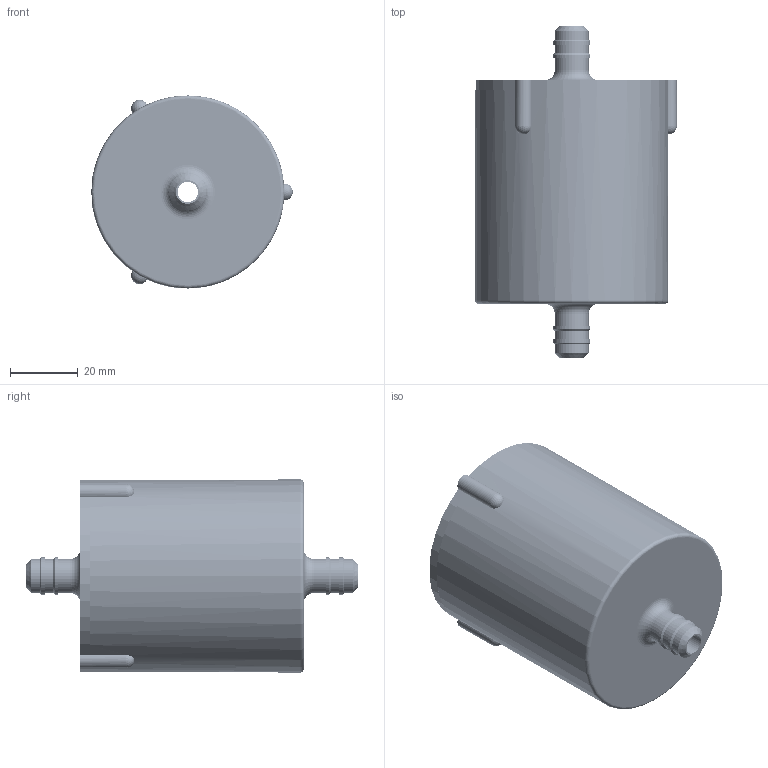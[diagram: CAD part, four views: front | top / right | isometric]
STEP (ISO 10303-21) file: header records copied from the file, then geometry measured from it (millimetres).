
FILE_DESCRIPTION(/* description */ (''),/* implementation_level */ '2;1');
FILE_NAME(/* name */ '/Users/valerian/Desktop/Silent Box Outtake V1 v13.step',/* time_stamp */ '2021-07-26T17:51:33+02:00',/* author */ (''),/* organization */ (''),/* preprocessor_version */ 'ST-DEVELOPER v18.1',/* originating_system */ 'Autodesk Translation Framework v10.9.0.1377',/* authorisation */ '');
FILE_SCHEMA (('AUTOMOTIVE_DESIGN { 1 0 10303 214 3 1 1 }'));
Products named in the file (4): Silent Box Outtake V1; Silent Box Body; Silent Box Roof; Foam
Assembly tree (3 placements, depth 2):
  Silent Box Outtake V1
    Silent Box Body
    Silent Box Roof
    Foam
Bounding box: 59.5 x 98 x 57 mm (x, y, z)
Volume: 165213.6 mm3; surface area: 54016 mm2
Topology: 3 solids, 3 shells, 1498 faces, 4124 edges, 2627 vertices
Faces by surface type: bspline 1042, plane 287, cylinder 157, cone 6, torus 3, sphere 3
Full cylindrical faces by diameter (mm): 2.529 x30, 3 x3, 3.086 x15, 6 x2, 9 x1, 9.8 x1, 10 x6, 11 x5, 51.8 x2, 52 x1, 57 x1
Entity records: 135131 total; most frequent: CARTESIAN_POINT 102575, ORIENTED_EDGE 8242, EDGE_CURVE 4121, DIRECTION 3399, VERTEX_POINT 2627, EDGE_LOOP 2228, B_SPLINE_CURVE_WITH_KNOTS 2102, LINE 1565
